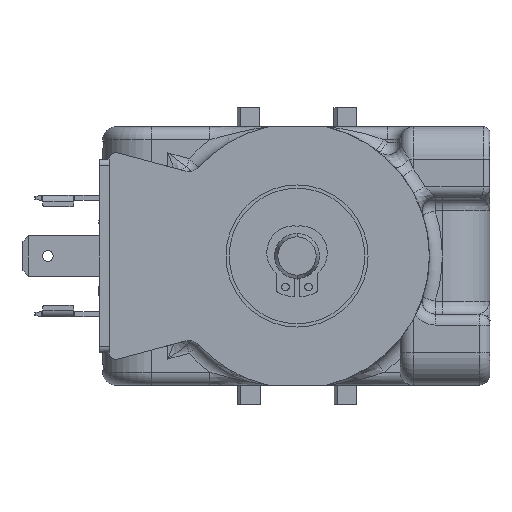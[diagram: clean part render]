
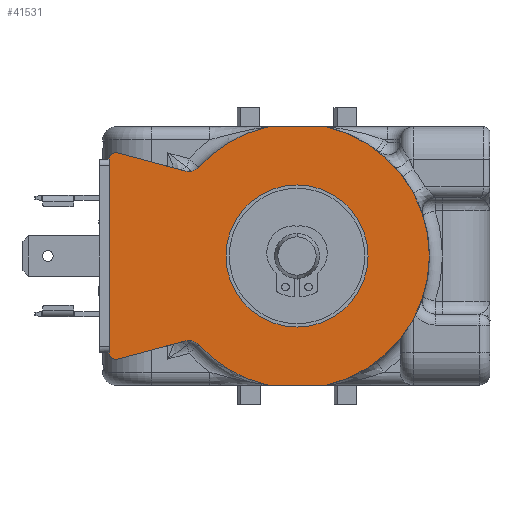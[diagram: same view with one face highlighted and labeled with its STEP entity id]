
A CAD part, front view. The second image highlights one B-rep face of the part: STEP entity #41531.
In plain terms, the highlighted planar face has unit normal (0, -1, 0).
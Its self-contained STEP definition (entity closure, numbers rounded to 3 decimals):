
#1490=DIRECTION('',(-1.,0.,0.));
#1491=VECTOR('',#1490,8.772);
#1492=CARTESIAN_POINT('',(4.5,-1.05,20.));
#1493=LINE('',#1492,#1491);
#4065=CARTESIAN_POINT('',(-28.107,-1.05,-15.025));
#4066=DIRECTION('',(0.,1.,0.));
#4067=DIRECTION('',(0.259,0.,-0.966));
#4068=AXIS2_PLACEMENT_3D('',#4065,#4066,#4067);
#4073=CARTESIAN_POINT('',(-28.107,-1.05,15.025));
#4074=DIRECTION('',(0.,1.,0.));
#4075=DIRECTION('',(-1.,0.,0.));
#4076=AXIS2_PLACEMENT_3D('',#4073,#4074,#4075);
#4081=DIRECTION('',(0.966,0.,-0.259));
#4082=VECTOR('',#4081,11.002);
#4083=CARTESIAN_POINT('',(-27.848,-1.05,15.991));
#4084=LINE('',#4083,#4082);
#4088=CARTESIAN_POINT('',(-16.703,-1.05,15.075));
#4089=DIRECTION('',(0.,-1.,0.));
#4090=DIRECTION('',(-0.259,0.,-0.966));
#4091=AXIS2_PLACEMENT_3D('',#4088,#4089,#4090);
#4096=CARTESIAN_POINT('',(0.,-1.05,0.));
#4097=DIRECTION('',(0.,1.,0.));
#4098=DIRECTION('',(-0.742,0.,0.67));
#4099=AXIS2_PLACEMENT_3D('',#4096,#4097,#4098);
#4104=CARTESIAN_POINT('',(-4.272,-1.05,18.));
#4105=DIRECTION('',(0.,1.,0.));
#4106=DIRECTION('',(-0.231,0.,0.973));
#4107=AXIS2_PLACEMENT_3D('',#4104,#4105,#4106);
#4112=CARTESIAN_POINT('',(0.,-1.05,0.));
#4113=DIRECTION('',(0.,1.,0.));
#4114=DIRECTION('',(0.22,0.,0.976));
#4115=AXIS2_PLACEMENT_3D('',#4112,#4113,#4114);
#4120=CARTESIAN_POINT('',(0.,-1.05,0.));
#4121=DIRECTION('',(0.,1.,0.));
#4122=DIRECTION('',(1.,0.,0.));
#4123=AXIS2_PLACEMENT_3D('',#4120,#4121,#4122);
#4128=DIRECTION('',(-1.,0.,0.));
#4129=VECTOR('',#4128,8.772);
#4130=CARTESIAN_POINT('',(4.5,-1.05,-20.));
#4131=LINE('',#4130,#4129);
#4135=CARTESIAN_POINT('',(-4.272,-1.05,-18.));
#4136=DIRECTION('',(0.,1.,0.));
#4137=DIRECTION('',(0.,0.,-1.));
#4138=AXIS2_PLACEMENT_3D('',#4135,#4136,#4137);
#4143=CARTESIAN_POINT('',(0.,-1.05,0.));
#4144=DIRECTION('',(0.,1.,0.));
#4145=DIRECTION('',(-0.231,0.,-0.973));
#4146=AXIS2_PLACEMENT_3D('',#4143,#4144,#4145);
#4151=CARTESIAN_POINT('',(-16.703,-1.05,-15.075));
#4152=DIRECTION('',(0.,-1.,0.));
#4153=DIRECTION('',(0.742,0.,0.67));
#4154=AXIS2_PLACEMENT_3D('',#4151,#4152,#4153);
#4159=DIRECTION('',(-0.966,0.,-0.259));
#4160=VECTOR('',#4159,11.002);
#4161=CARTESIAN_POINT('',(-17.221,-1.05,-13.143));
#4162=LINE('',#4161,#4160);
#4166=CARTESIAN_POINT('',(0.,-1.05,0.));
#4167=DIRECTION('',(0.,-1.,0.));
#4168=DIRECTION('',(0.,0.,1.));
#4169=AXIS2_PLACEMENT_3D('',#4166,#4167,#4168);
#4174=CARTESIAN_POINT('',(0.,-1.05,0.));
#4175=DIRECTION('',(0.,-1.,0.));
#4176=DIRECTION('',(0.,0.,-1.));
#4177=AXIS2_PLACEMENT_3D('',#4174,#4175,#4176);
#4454=DIRECTION('',(0.,0.,-1.));
#4455=VECTOR('',#4454,30.05);
#4456=CARTESIAN_POINT('',(-29.107,-1.05,15.025));
#4457=LINE('',#4456,#4455);
#33955=CARTESIAN_POINT('',(4.5,-1.05,20.));
#33956=VERTEX_POINT('',#33955);
#33957=CARTESIAN_POINT('',(-4.272,-1.05,20.));
#33958=VERTEX_POINT('',#33957);
#34162=CARTESIAN_POINT('',(-4.272,-1.05,-20.));
#34163=VERTEX_POINT('',#34162);
#34164=CARTESIAN_POINT('',(4.5,-1.05,-20.));
#34165=VERTEX_POINT('',#34164);
#36984=CARTESIAN_POINT('',(-29.107,-1.05,-15.025));
#36986=VERTEX_POINT('',#36984);
#36991=CARTESIAN_POINT('',(-29.107,-1.05,15.025));
#36992=VERTEX_POINT('',#36991);
#37213=CARTESIAN_POINT('',(0.,-1.05,11.));
#37214=CARTESIAN_POINT('',(0.,-1.05,-11.));
#37215=VERTEX_POINT('',#37213);
#37216=VERTEX_POINT('',#37214);
#37217=CARTESIAN_POINT('',(-27.848,-1.05,-15.991));
#37218=VERTEX_POINT('',#37217);
#37219=CARTESIAN_POINT('',(-27.848,-1.05,15.991));
#37220=VERTEX_POINT('',#37219);
#37221=CARTESIAN_POINT('',(-17.221,-1.05,13.143));
#37222=VERTEX_POINT('',#37221);
#37223=CARTESIAN_POINT('',(-15.218,-1.05,13.735));
#37224=VERTEX_POINT('',#37223);
#37225=CARTESIAN_POINT('',(-4.734,-1.05,19.946));
#37226=VERTEX_POINT('',#37225);
#37227=CARTESIAN_POINT('',(20.5,-1.05,0.));
#37228=VERTEX_POINT('',#37227);
#37229=CARTESIAN_POINT('',(-4.734,-1.05,-19.946));
#37230=VERTEX_POINT('',#37229);
#37231=CARTESIAN_POINT('',(-15.218,-1.05,-13.735));
#37232=VERTEX_POINT('',#37231);
#37233=CARTESIAN_POINT('',(-17.221,-1.05,-13.143));
#37234=VERTEX_POINT('',#37233);
#41493=CARTESIAN_POINT('',(-30.107,-1.05,-20.));
#41494=DIRECTION('',(0.,-1.,0.));
#41495=DIRECTION('',(1.,0.,0.));
#41496=AXIS2_PLACEMENT_3D('',#41493,#41494,#41495);
#41497=PLANE('',#41496);
#41499=ORIENTED_EDGE('',*,*,#41498,.T.);
#41501=ORIENTED_EDGE('',*,*,#41500,.F.);
#41502=ORIENTED_EDGE('',*,*,#41483,.T.);
#41503=ORIENTED_EDGE('',*,*,#41473,.T.);
#41504=ORIENTED_EDGE('',*,*,#41343,.T.);
#41506=ORIENTED_EDGE('',*,*,#41505,.T.);
#41508=ORIENTED_EDGE('',*,*,#41507,.T.);
#41509=ORIENTED_EDGE('',*,*,#39116,.F.);
#41511=ORIENTED_EDGE('',*,*,#41510,.T.);
#41513=ORIENTED_EDGE('',*,*,#41512,.T.);
#41514=ORIENTED_EDGE('',*,*,#40724,.T.);
#41516=ORIENTED_EDGE('',*,*,#41515,.T.);
#41518=ORIENTED_EDGE('',*,*,#41517,.T.);
#41520=ORIENTED_EDGE('',*,*,#41519,.T.);
#41522=ORIENTED_EDGE('',*,*,#41521,.T.);
#41523=EDGE_LOOP('',(#41499,#41501,#41502,#41503,#41504,#41506,#41508,#41509,
#41511,#41513,#41514,#41516,#41518,#41520,#41522));
#41524=FACE_OUTER_BOUND('',#41523,.F.);
#41526=ORIENTED_EDGE('',*,*,#41525,.T.);
#41528=ORIENTED_EDGE('',*,*,#41527,.T.);
#41529=EDGE_LOOP('',(#41526,#41528));
#41530=FACE_BOUND('',#41529,.F.);
#4069=CIRCLE('',#4068,1.);
#4077=CIRCLE('',#4076,1.);
#4092=CIRCLE('',#4091,2.);
#4100=CIRCLE('',#4099,20.5);
#4108=CIRCLE('',#4107,2.);
#4116=CIRCLE('',#4115,20.5);
#4124=CIRCLE('',#4123,20.5);
#4139=CIRCLE('',#4138,2.);
#4147=CIRCLE('',#4146,20.5);
#4155=CIRCLE('',#4154,2.);
#4170=CIRCLE('',#4169,11.);
#4178=CIRCLE('',#4177,11.);
#39116=EDGE_CURVE('',#33956,#33958,#1493,.T.);
#40724=EDGE_CURVE('',#34165,#34163,#4131,.T.);
#41343=EDGE_CURVE('',#37222,#37224,#4092,.T.);
#41473=EDGE_CURVE('',#37220,#37222,#4084,.T.);
#41483=EDGE_CURVE('',#36992,#37220,#4077,.T.);
#41498=EDGE_CURVE('',#37218,#36986,#4069,.T.);
#41500=EDGE_CURVE('',#36992,#36986,#4457,.T.);
#41505=EDGE_CURVE('',#37224,#37226,#4100,.T.);
#41507=EDGE_CURVE('',#37226,#33958,#4108,.T.);
#41510=EDGE_CURVE('',#33956,#37228,#4116,.T.);
#41512=EDGE_CURVE('',#37228,#34165,#4124,.T.);
#41515=EDGE_CURVE('',#34163,#37230,#4139,.T.);
#41517=EDGE_CURVE('',#37230,#37232,#4147,.T.);
#41519=EDGE_CURVE('',#37232,#37234,#4155,.T.);
#41521=EDGE_CURVE('',#37234,#37218,#4162,.T.);
#41525=EDGE_CURVE('',#37215,#37216,#4170,.T.);
#41527=EDGE_CURVE('',#37216,#37215,#4178,.T.);
#41531=ADVANCED_FACE('',(#41524,#41530),#41497,.T.);
